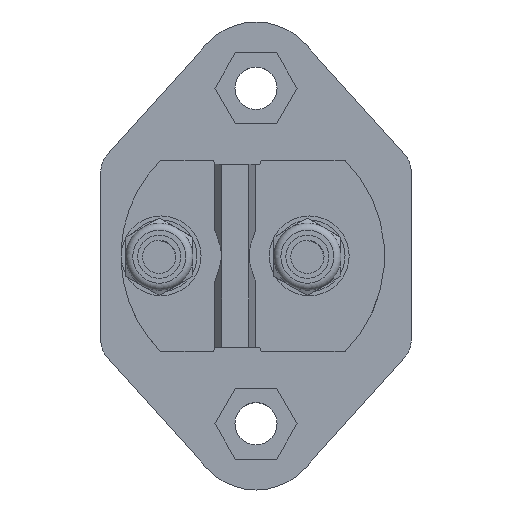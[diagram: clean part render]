
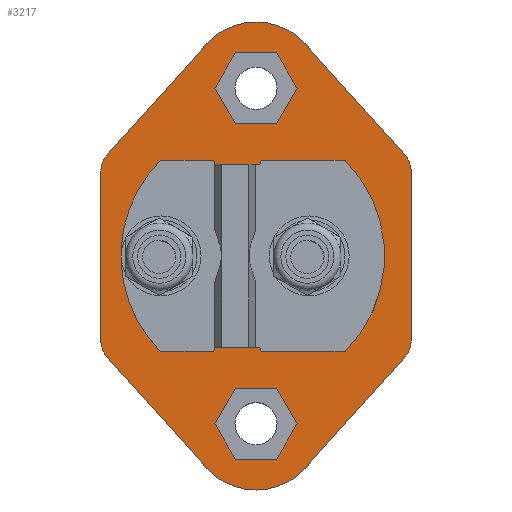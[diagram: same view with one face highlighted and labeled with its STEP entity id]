
A CAD part, top view. The second image highlights one B-rep face of the part: STEP entity #3217.
In plain terms, the highlighted planar face has unit normal (0, 0, 1) as drawn and (0, 0, -1) by its records, which use the part's own axes.
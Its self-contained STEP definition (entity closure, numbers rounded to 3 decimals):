
#102=FACE_BOUND('',#614,.T.);
#103=FACE_BOUND('',#615,.T.);
#150=ELLIPSE('',#3569,3.034,3.);
#154=ELLIPSE('',#3580,3.034,3.);
#155=ELLIPSE('',#3583,3.034,3.);
#156=ELLIPSE('',#3586,3.034,3.);
#252=PLANE('',#3596);
#417=FACE_OUTER_BOUND('',#613,.T.);
#613=EDGE_LOOP('',(#2799,#2800,#2801,#2802,#2803,#2804,#2805,#2806,#2807,
#2808,#2809,#2810));
#614=EDGE_LOOP('',(#2811,#2812,#2813,#2814,#2815,#2816));
#615=EDGE_LOOP('',(#2817,#2818,#2819,#2820,#2821,#2822));
#719=CIRCLE('',#3588,7.905);
#720=CIRCLE('',#3592,7.905);
#963=LINE('',#10113,#1191);
#967=LINE('',#10121,#1195);
#970=LINE('',#10127,#1198);
#973=LINE('',#10133,#1201);
#976=LINE('',#10139,#1204);
#979=LINE('',#10144,#1207);
#981=LINE('',#10152,#1209);
#985=LINE('',#10160,#1213);
#988=LINE('',#10166,#1216);
#991=LINE('',#10172,#1219);
#994=LINE('',#10178,#1222);
#997=LINE('',#10183,#1225);
#1003=LINE('',#10202,#1231);
#1011=LINE('',#10234,#1239);
#1015=LINE('',#10244,#1243);
#1019=LINE('',#10256,#1247);
#1020=LINE('',#10258,#1248);
#1022=LINE('',#10264,#1250);
#1191=VECTOR('',#4134,10.);
#1195=VECTOR('',#4140,10.);
#1198=VECTOR('',#4145,10.);
#1201=VECTOR('',#4150,10.);
#1204=VECTOR('',#4155,10.);
#1207=VECTOR('',#4160,10.);
#1209=VECTOR('',#4168,10.);
#1213=VECTOR('',#4174,10.);
#1216=VECTOR('',#4179,10.);
#1219=VECTOR('',#4184,10.);
#1222=VECTOR('',#4189,10.);
#1225=VECTOR('',#4194,10.);
#1231=VECTOR('',#4212,10.);
#1239=VECTOR('',#4242,10.);
#1243=VECTOR('',#4252,10.);
#1247=VECTOR('',#4266,10.);
#1248=VECTOR('',#4269,10.);
#1250=VECTOR('',#4277,10.);
#1499=VERTEX_POINT('',#10111);
#1500=VERTEX_POINT('',#10112);
#1503=VERTEX_POINT('',#10120);
#1505=VERTEX_POINT('',#10126);
#1507=VERTEX_POINT('',#10132);
#1509=VERTEX_POINT('',#10138);
#1512=VERTEX_POINT('',#10150);
#1513=VERTEX_POINT('',#10151);
#1516=VERTEX_POINT('',#10159);
#1518=VERTEX_POINT('',#10165);
#1520=VERTEX_POINT('',#10171);
#1522=VERTEX_POINT('',#10177);
#1527=VERTEX_POINT('',#10192);
#1528=VERTEX_POINT('',#10194);
#1530=VERTEX_POINT('',#10200);
#1542=VERTEX_POINT('',#10228);
#1543=VERTEX_POINT('',#10232);
#1544=VERTEX_POINT('',#10236);
#1545=VERTEX_POINT('',#10238);
#1546=VERTEX_POINT('',#10242);
#1547=VERTEX_POINT('',#10246);
#1548=VERTEX_POINT('',#10250);
#1549=VERTEX_POINT('',#10251);
#1550=VERTEX_POINT('',#10260);
#1907=EDGE_CURVE('',#1499,#1500,#963,.T.);
#1911=EDGE_CURVE('',#1503,#1499,#967,.T.);
#1914=EDGE_CURVE('',#1505,#1503,#970,.T.);
#1917=EDGE_CURVE('',#1507,#1505,#973,.T.);
#1920=EDGE_CURVE('',#1509,#1507,#976,.T.);
#1923=EDGE_CURVE('',#1500,#1509,#979,.T.);
#1926=EDGE_CURVE('',#1512,#1513,#981,.T.);
#1930=EDGE_CURVE('',#1516,#1512,#985,.T.);
#1933=EDGE_CURVE('',#1518,#1516,#988,.T.);
#1936=EDGE_CURVE('',#1520,#1518,#991,.T.);
#1939=EDGE_CURVE('',#1522,#1520,#994,.T.);
#1942=EDGE_CURVE('',#1513,#1522,#997,.T.);
#1947=EDGE_CURVE('',#1527,#1528,#150,.T.);
#1951=EDGE_CURVE('',#1530,#1527,#1003,.F.);
#1964=EDGE_CURVE('',#1542,#1530,#154,.T.);
#1967=EDGE_CURVE('',#1542,#1543,#1011,.F.);
#1969=EDGE_CURVE('',#1544,#1545,#155,.T.);
#1972=EDGE_CURVE('',#1546,#1544,#1015,.F.);
#1973=EDGE_CURVE('',#1547,#1546,#156,.T.);
#1975=EDGE_CURVE('',#1548,#1549,#719,.F.);
#1978=EDGE_CURVE('',#1549,#1528,#1019,.F.);
#1979=EDGE_CURVE('',#1547,#1548,#1020,.F.);
#1980=EDGE_CURVE('',#1543,#1550,#720,.F.);
#1982=EDGE_CURVE('',#1550,#1545,#1022,.F.);
#2799=ORIENTED_EDGE('',*,*,#1947,.F.);
#2800=ORIENTED_EDGE('',*,*,#1951,.F.);
#2801=ORIENTED_EDGE('',*,*,#1964,.F.);
#2802=ORIENTED_EDGE('',*,*,#1967,.T.);
#2803=ORIENTED_EDGE('',*,*,#1980,.T.);
#2804=ORIENTED_EDGE('',*,*,#1982,.T.);
#2805=ORIENTED_EDGE('',*,*,#1969,.F.);
#2806=ORIENTED_EDGE('',*,*,#1972,.F.);
#2807=ORIENTED_EDGE('',*,*,#1973,.F.);
#2808=ORIENTED_EDGE('',*,*,#1979,.T.);
#2809=ORIENTED_EDGE('',*,*,#1975,.T.);
#2810=ORIENTED_EDGE('',*,*,#1978,.T.);
#2811=ORIENTED_EDGE('',*,*,#1907,.T.);
#2812=ORIENTED_EDGE('',*,*,#1923,.T.);
#2813=ORIENTED_EDGE('',*,*,#1920,.T.);
#2814=ORIENTED_EDGE('',*,*,#1917,.T.);
#2815=ORIENTED_EDGE('',*,*,#1914,.T.);
#2816=ORIENTED_EDGE('',*,*,#1911,.T.);
#2817=ORIENTED_EDGE('',*,*,#1926,.T.);
#2818=ORIENTED_EDGE('',*,*,#1942,.T.);
#2819=ORIENTED_EDGE('',*,*,#1939,.T.);
#2820=ORIENTED_EDGE('',*,*,#1936,.T.);
#2821=ORIENTED_EDGE('',*,*,#1933,.T.);
#2822=ORIENTED_EDGE('',*,*,#1930,.T.);
#3217=ADVANCED_FACE('',(#417,#102,#103),#252,.F.);
#3569=AXIS2_PLACEMENT_3D('',#10195,#4205,#4206);
#3580=AXIS2_PLACEMENT_3D('',#10229,#4236,#4237);
#3583=AXIS2_PLACEMENT_3D('',#10239,#4246,#4247);
#3586=AXIS2_PLACEMENT_3D('',#10247,#4255,#4256);
#3588=AXIS2_PLACEMENT_3D('',#10252,#4260,#4261);
#3592=AXIS2_PLACEMENT_3D('',#10261,#4272,#4273);
#3596=AXIS2_PLACEMENT_3D('',#10269,#4284,#4285);
#4134=DIRECTION('',(0.,-1.,0.));
#4140=DIRECTION('',(-0.866,-0.5,0.));
#4145=DIRECTION('',(-0.866,0.5,0.));
#4150=DIRECTION('',(0.,1.,0.));
#4155=DIRECTION('',(0.866,0.5,0.));
#4160=DIRECTION('',(0.866,-0.5,0.));
#4168=DIRECTION('',(0.866,-0.5,0.));
#4174=DIRECTION('',(0.,-1.,0.));
#4179=DIRECTION('',(-0.866,-0.5,0.));
#4184=DIRECTION('',(-0.866,0.5,0.));
#4189=DIRECTION('',(0.,1.,0.));
#4194=DIRECTION('',(0.866,0.5,0.));
#4205=DIRECTION('center_axis',(0.,0.,1.));
#4206=DIRECTION('ref_axis',(-0.358,0.934,0.));
#4212=DIRECTION('',(1.,0.,0.));
#4236=DIRECTION('center_axis',(0.,0.,1.));
#4237=DIRECTION('ref_axis',(0.358,0.934,0.));
#4242=DIRECTION('',(-0.744,0.669,0.));
#4246=DIRECTION('center_axis',(0.,0.,1.));
#4247=DIRECTION('ref_axis',(0.358,-0.934,0.));
#4252=DIRECTION('',(-1.,0.,0.));
#4255=DIRECTION('center_axis',(0.,0.,1.));
#4256=DIRECTION('ref_axis',(-0.358,-0.934,0.));
#4260=DIRECTION('center_axis',(0.,0.,1.));
#4261=DIRECTION('ref_axis',(-1.,0.,0.));
#4266=DIRECTION('',(-0.744,-0.669,0.));
#4269=DIRECTION('',(0.744,-0.669,0.));
#4272=DIRECTION('center_axis',(0.,0.,1.));
#4273=DIRECTION('ref_axis',(-1.,0.,0.));
#4277=DIRECTION('',(0.744,0.669,0.));
#4284=DIRECTION('center_axis',(0.,0.,1.));
#4285=DIRECTION('ref_axis',(1.,0.,0.));
#10111=CARTESIAN_POINT('',(2.656,19.95,0.));
#10112=CARTESIAN_POINT('',(2.656,15.05,0.));
#10113=CARTESIAN_POINT('',(2.656,18.726,0.));
#10120=CARTESIAN_POINT('',(6.9,22.4,0.));
#10121=CARTESIAN_POINT('',(13.339,26.118,0.));
#10126=CARTESIAN_POINT('',(11.144,19.95,0.));
#10127=CARTESIAN_POINT('',(17.583,16.233,0.));
#10132=CARTESIAN_POINT('',(11.144,15.05,0.));
#10133=CARTESIAN_POINT('',(11.144,16.275,0.));
#10138=CARTESIAN_POINT('',(6.9,12.6,0.));
#10139=CARTESIAN_POINT('',(15.46,17.543,0.));
#10144=CARTESIAN_POINT('',(11.217,10.107,0.));
#10150=CARTESIAN_POINT('',(42.656,15.05,0.));
#10151=CARTESIAN_POINT('',(46.9,12.6,0.));
#10152=CARTESIAN_POINT('',(36.218,18.768,0.));
#10159=CARTESIAN_POINT('',(42.656,19.95,0.));
#10160=CARTESIAN_POINT('',(42.656,18.726,0.));
#10165=CARTESIAN_POINT('',(46.9,22.4,0.));
#10166=CARTESIAN_POINT('',(38.339,17.458,0.));
#10171=CARTESIAN_POINT('',(51.144,19.95,0.));
#10172=CARTESIAN_POINT('',(42.583,24.893,0.));
#10177=CARTESIAN_POINT('',(51.144,15.05,0.));
#10178=CARTESIAN_POINT('',(51.144,16.275,0.));
#10183=CARTESIAN_POINT('',(40.461,8.882,0.));
#10192=CARTESIAN_POINT('',(16.794,36.005,0.));
#10194=CARTESIAN_POINT('',(14.807,35.243,0.));
#10195=CARTESIAN_POINT('Origin',(16.816,32.975,0.));
#10200=CARTESIAN_POINT('',(37.006,36.005,0.));
#10202=CARTESIAN_POINT('',(40.35,36.005,0.));
#10228=CARTESIAN_POINT('',(38.993,35.243,0.));
#10229=CARTESIAN_POINT('Origin',(36.984,32.975,0.));
#10232=CARTESIAN_POINT('',(52.186,23.378,0.));
#10234=CARTESIAN_POINT('',(46.657,28.35,0.));
#10236=CARTESIAN_POINT('',(37.006,-1.005,0.));
#10238=CARTESIAN_POINT('',(38.993,-0.243,0.));
#10239=CARTESIAN_POINT('Origin',(36.984,2.025,0.));
#10242=CARTESIAN_POINT('',(16.794,-1.005,0.));
#10244=CARTESIAN_POINT('',(13.45,-1.005,0.));
#10246=CARTESIAN_POINT('',(14.807,-0.243,0.));
#10247=CARTESIAN_POINT('Origin',(16.816,2.025,0.));
#10250=CARTESIAN_POINT('',(1.614,11.622,0.));
#10251=CARTESIAN_POINT('',(1.614,23.378,0.));
#10252=CARTESIAN_POINT('Origin',(6.9,17.5,0.));
#10256=CARTESIAN_POINT('',(14.02,34.534,0.));
#10258=CARTESIAN_POINT('',(7.143,6.65,0.));
#10260=CARTESIAN_POINT('',(52.186,11.622,0.));
#10261=CARTESIAN_POINT('Origin',(46.9,17.5,0.));
#10264=CARTESIAN_POINT('',(39.78,0.466,0.));
#10269=CARTESIAN_POINT('Origin',(26.9,17.5,0.));
